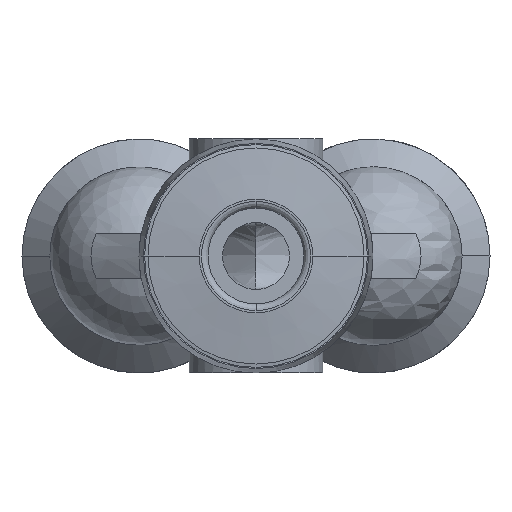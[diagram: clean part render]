
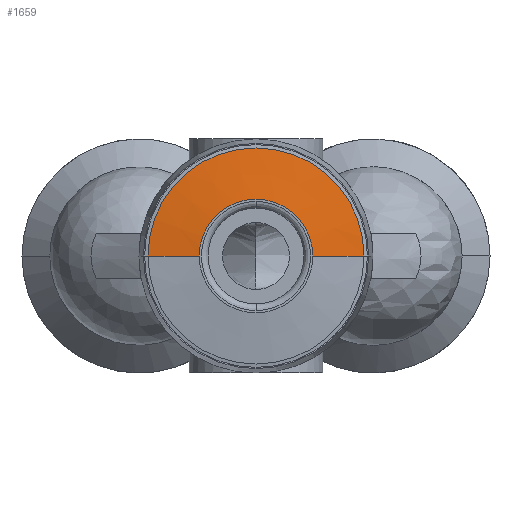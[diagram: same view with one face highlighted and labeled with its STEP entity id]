
A CAD part, front view. The second image highlights one B-rep face of the part: STEP entity #1659.
In plain terms, the highlighted conical face has half-angle 82.569 degrees and reference radius 3.7 mm.
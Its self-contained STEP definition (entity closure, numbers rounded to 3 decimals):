
#41 = EDGE_LOOP ( 'NONE', ( #2707, #2925, #4224, #1397 ) ) ;
#194 = DIRECTION ( 'NONE',  ( 0., 1., 0. ) ) ;
#235 = CARTESIAN_POINT ( 'NONE',  ( 0., -6., 0. ) ) ;
#288 = AXIS2_PLACEMENT_3D ( 'NONE', #235, #194, #1827 ) ;
#322 = CARTESIAN_POINT ( 'NONE',  ( 0., -5.85, 0. ) ) ;
#544 = DIRECTION ( 'NONE',  ( 0.992, 0.129, 0. ) ) ;
#865 = CARTESIAN_POINT ( 'NONE',  ( -4.85, -5.85, 0. ) ) ;
#1000 = EDGE_CURVE ( 'NONE', #2174, #1761, #3891, .T. ) ;
#1094 = LINE ( 'NONE', #1740, #3230 ) ;
#1234 = CARTESIAN_POINT ( 'NONE',  ( 2.55, -6.15, 0. ) ) ;
#1280 = VERTEX_POINT ( 'NONE', #865 ) ;
#1397 = ORIENTED_EDGE ( 'NONE', *, *, #1575, .F. ) ;
#1518 = CARTESIAN_POINT ( 'NONE',  ( 4.85, -5.85, 0. ) ) ;
#1575 = EDGE_CURVE ( 'NONE', #2314, #1280, #1094, .T. ) ;
#1611 = CARTESIAN_POINT ( 'NONE',  ( -2.55, -6.15, 0. ) ) ;
#1659 = ADVANCED_FACE ( 'NONE', ( #1868 ), #3446, .T. ) ;
#1740 = CARTESIAN_POINT ( 'NONE',  ( -3.7, -6., 0. ) ) ;
#1761 = VERTEX_POINT ( 'NONE', #1518 ) ;
#1827 = DIRECTION ( 'NONE',  ( -1., 0., 0. ) ) ;
#1868 = FACE_OUTER_BOUND ( 'NONE', #41, .T. ) ;
#1978 = DIRECTION ( 'NONE',  ( 0., 1., 0. ) ) ;
#2174 = VERTEX_POINT ( 'NONE', #1234 ) ;
#2206 = CARTESIAN_POINT ( 'NONE',  ( 0., -6.15, 0. ) ) ;
#2269 = CARTESIAN_POINT ( 'NONE',  ( 3.7, -6., 0. ) ) ;
#2314 = VERTEX_POINT ( 'NONE', #1611 ) ;
#2543 = DIRECTION ( 'NONE',  ( 0., 1., 0. ) ) ;
#2580 = DIRECTION ( 'NONE',  ( -1., 0., 0. ) ) ;
#2652 = AXIS2_PLACEMENT_3D ( 'NONE', #322, #1978, #2664 ) ;
#2664 = DIRECTION ( 'NONE',  ( -1., 0., 0. ) ) ;
#2707 = ORIENTED_EDGE ( 'NONE', *, *, #2900, .T. ) ;
#2900 = EDGE_CURVE ( 'NONE', #2314, #2174, #3674, .T. ) ;
#2925 = ORIENTED_EDGE ( 'NONE', *, *, #1000, .T. ) ;
#3045 = DIRECTION ( 'NONE',  ( -0.992, 0.129, 0. ) ) ;
#3230 = VECTOR ( 'NONE', #3045, 1000. ) ;
#3409 = EDGE_CURVE ( 'NONE', #1280, #1761, #3813, .T. ) ;
#3446 = CONICAL_SURFACE ( 'NONE', #288, 3.7, 1.441 ) ;
#3674 = CIRCLE ( 'NONE', #4156, 2.55 ) ;
#3778 = VECTOR ( 'NONE', #544, 1000. ) ;
#3813 = CIRCLE ( 'NONE', #2652, 4.85 ) ;
#3891 = LINE ( 'NONE', #2269, #3778 ) ;
#4156 = AXIS2_PLACEMENT_3D ( 'NONE', #2206, #2543, #2580 ) ;
#4224 = ORIENTED_EDGE ( 'NONE', *, *, #3409, .F. ) ;
